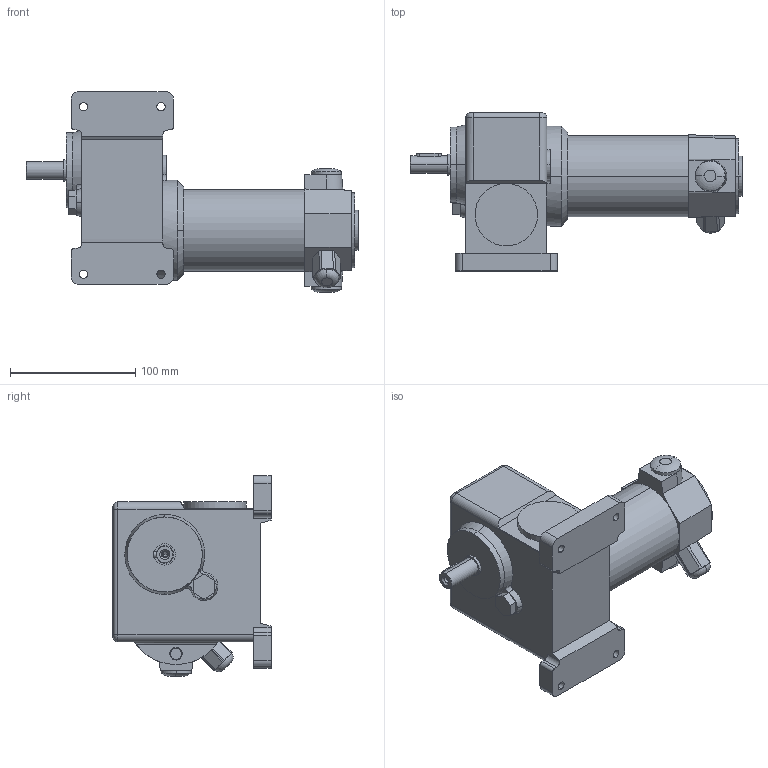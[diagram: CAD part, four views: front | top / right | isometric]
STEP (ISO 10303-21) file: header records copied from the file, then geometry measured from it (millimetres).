
FILE_DESCRIPTION(('OneSpaceDesigner STEP Export'),'2;1');
FILE_NAME('EPG04_G24.stp','2008-07-17T 7:50:45',(''),(''),'OneSpace Designer STEP processor (Jan. 2003) for AP214(CD)(Solid Model)','OneSpace Designer 12.01D 09-Jul-2004 (C) CoCreate Software GmbH','');
FILE_SCHEMA(('AUTOMOTIVE_DESIGN_CC2 {1 2 10303 214 -1 1 5 1}'));
Length unit declared in the file: millimetre
Products named in the file (2): EPG04_G24
Assembly tree (1 placements, depth 2):
  EPG04_G24
    EPG04_G24
Bounding box: 265.5 x 126.5 x 160.5 mm (x, y, z)
Volume: 1534283.5 mm3; surface area: 111285.2 mm2
Topology: 1 solids, 1 shells, 175 faces, 463 edges, 305 vertices
Faces by surface type: plane 75, cylinder 72, torus 10, cone 10, bspline 8
Entity records: 9956 total; most frequent: CARTESIAN_POINT 5884, ORIENTED_EDGE 922, DIRECTION 741, EDGE_CURVE 461, VERTEX_POINT 305, AXIS2_PLACEMENT_3D 254, VECTOR 233, LINE 233
